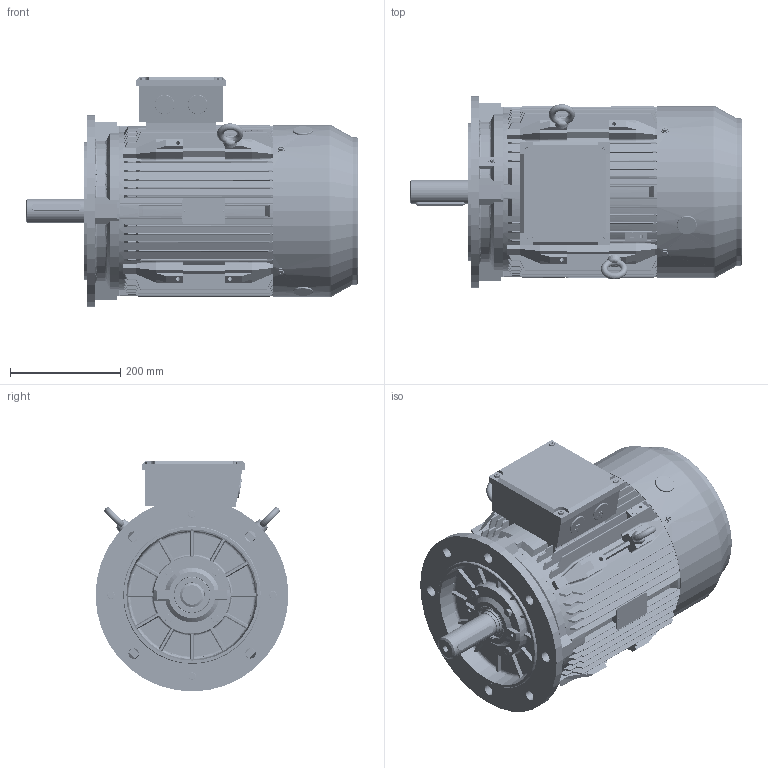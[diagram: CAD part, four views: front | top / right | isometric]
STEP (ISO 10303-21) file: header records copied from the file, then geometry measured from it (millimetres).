
FILE_DESCRIPTION (( 'STEP AP214' ), '1' );
FILE_NAME ('BCT3750.16D605.11.STEP', '2020-04-23T14:18:00', ( '' ), ( '' ), 'SwSTEP 2.0', 'SolidWorks 2019', '' );
FILE_SCHEMA (( 'AUTOMOTIVE_DESIGN' ));
Length unit declared in the file: millimetre
Products named in the file (1): BCT3750.16D605.11
Bounding box: 602.5 x 350 x 419 mm (x, y, z)
Volume: 8811625.6 mm3; surface area: 2704170.1 mm2
Topology: 51 solids, 52 shells, 6841 faces, 19558 edges, 12769 vertices
Faces by surface type: plane 3210, cylinder 2530, cone 458, torus 414, bspline 125, sphere 104
Entity records: 267032 total; most frequent: CARTESIAN_POINT 86661, ORIENTED_EDGE 38688, DIRECTION 36573, EDGE_CURVE 19344, AXIS2_PLACEMENT_3D 12930, VERTEX_POINT 12717, VECTOR 10713, LINE 10713
